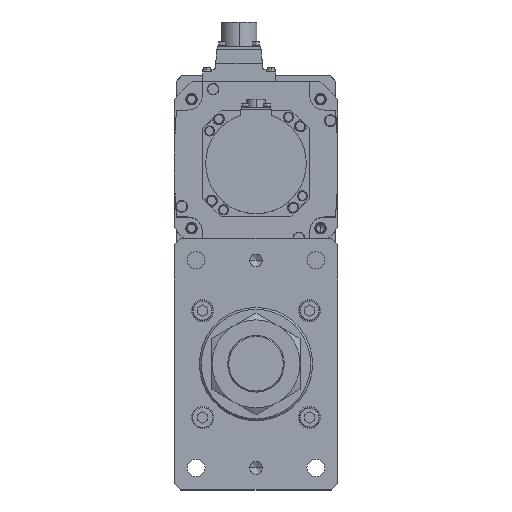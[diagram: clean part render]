
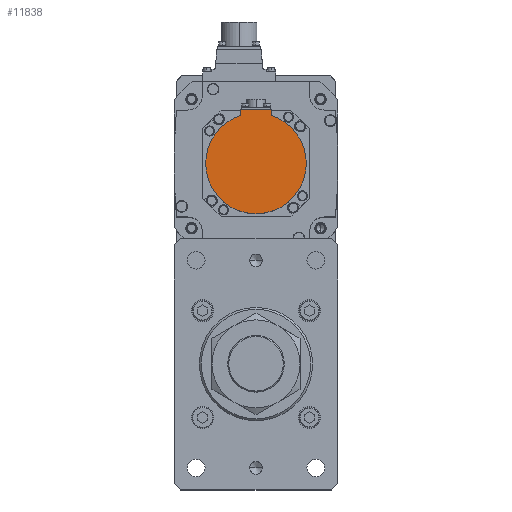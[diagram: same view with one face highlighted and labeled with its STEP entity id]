
A CAD part, top view. The second image highlights one B-rep face of the part: STEP entity #11838.
In plain terms, the highlighted planar face has unit normal (0, 0, 1) as drawn and (0, 0, -1) by its records, which use the part's own axes.
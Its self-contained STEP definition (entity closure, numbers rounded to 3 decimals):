
#1094 = LINE ( 'NONE', #6659, #1936 ) ;
#1126 = AXIS2_PLACEMENT_3D ( 'NONE', #30424, #25196, #14094 ) ;
#1936 = VECTOR ( 'NONE', #20010, 1000. ) ;
#2162 = CARTESIAN_POINT ( 'NONE',  ( 12., -42.5, -146.5 ) ) ;
#3071 = EDGE_CURVE ( 'NONE', #27426, #30811, #11373, .T. ) ;
#3262 = VERTEX_POINT ( 'NONE', #25679 ) ;
#3882 = CIRCLE ( 'NONE', #15030, 40. ) ;
#4363 = FACE_OUTER_BOUND ( 'NONE', #31242, .T. ) ;
#5574 = EDGE_CURVE ( 'NONE', #3262, #32224, #20406, .T. ) ;
#6659 = CARTESIAN_POINT ( 'NONE',  ( 0., -42.5, -146.5 ) ) ;
#7185 = CARTESIAN_POINT ( 'NONE',  ( 0., 0., -146.5 ) ) ;
#8068 = CARTESIAN_POINT ( 'NONE',  ( 40., 0., -146.5 ) ) ;
#8413 = VECTOR ( 'NONE', #13704, 1000. ) ;
#8505 = DIRECTION ( 'NONE',  ( 0., 0., 1. ) ) ;
#8548 = LINE ( 'NONE', #23220, #21117 ) ;
#10590 = CARTESIAN_POINT ( 'NONE',  ( -12., -40.329, -146.5 ) ) ;
#10646 = DIRECTION ( 'NONE',  ( 0., 0., 1. ) ) ;
#11373 = LINE ( 'NONE', #10590, #8413 ) ;
#11534 = ORIENTED_EDGE ( 'NONE', *, *, #31914, .F. ) ;
#11673 = VERTEX_POINT ( 'NONE', #2162 ) ;
#11838 = ADVANCED_FACE ( 'NONE', ( #4363 ), #27645, .F. ) ;
#13229 = ORIENTED_EDGE ( 'NONE', *, *, #5574, .F. ) ;
#13301 = CARTESIAN_POINT ( 'NONE',  ( -12., -42.5, -146.5 ) ) ;
#13704 = DIRECTION ( 'NONE',  ( 0., 1., 0. ) ) ;
#14094 = DIRECTION ( 'NONE',  ( 1., 0., 0. ) ) ;
#14225 = ORIENTED_EDGE ( 'NONE', *, *, #27668, .F. ) ;
#15030 = AXIS2_PLACEMENT_3D ( 'NONE', #7185, #19243, #32644 ) ;
#15440 = CARTESIAN_POINT ( 'NONE',  ( -40., 0., -146.5 ) ) ;
#15641 = DIRECTION ( 'NONE',  ( 1., 0., 0. ) ) ;
#17266 = CIRCLE ( 'NONE', #34623, 40. ) ;
#17501 = DIRECTION ( 'NONE',  ( 0., 1., 0. ) ) ;
#19034 = ORIENTED_EDGE ( 'NONE', *, *, #27115, .T. ) ;
#19243 = DIRECTION ( 'NONE',  ( 0., 0., 1. ) ) ;
#20010 = DIRECTION ( 'NONE',  ( -1., 0., 0. ) ) ;
#20406 = CIRCLE ( 'NONE', #20704, 40. ) ;
#20704 = AXIS2_PLACEMENT_3D ( 'NONE', #26631, #10646, #15641 ) ;
#21117 = VECTOR ( 'NONE', #17501, 1000. ) ;
#23184 = ORIENTED_EDGE ( 'NONE', *, *, #3071, .T. ) ;
#23220 = CARTESIAN_POINT ( 'NONE',  ( 12., -1.249, -146.5 ) ) ;
#23255 = CARTESIAN_POINT ( 'NONE',  ( 0., 0., -146.5 ) ) ;
#23316 = ORIENTED_EDGE ( 'NONE', *, *, #29294, .F. ) ;
#24527 = VERTEX_POINT ( 'NONE', #15440 ) ;
#25196 = DIRECTION ( 'NONE',  ( 0., 0., 1. ) ) ;
#25428 = DIRECTION ( 'NONE',  ( 1., 0., 0. ) ) ;
#25679 = CARTESIAN_POINT ( 'NONE',  ( 12., -38.158, -146.5 ) ) ;
#26631 = CARTESIAN_POINT ( 'NONE',  ( 0., 0., -146.5 ) ) ;
#27115 = EDGE_CURVE ( 'NONE', #11673, #27426, #1094, .T. ) ;
#27426 = VERTEX_POINT ( 'NONE', #13301 ) ;
#27645 = PLANE ( 'NONE',  #1126 ) ;
#27668 = EDGE_CURVE ( 'NONE', #11673, #3262, #8548, .T. ) ;
#29024 = CARTESIAN_POINT ( 'NONE',  ( -12., -38.158, -146.5 ) ) ;
#29294 = EDGE_CURVE ( 'NONE', #24527, #30811, #17266, .T. ) ;
#30424 = CARTESIAN_POINT ( 'NONE',  ( 0., -1.249, -146.5 ) ) ;
#30811 = VERTEX_POINT ( 'NONE', #29024 ) ;
#31242 = EDGE_LOOP ( 'NONE', ( #23184, #23316, #11534, #13229, #14225, #19034 ) ) ;
#31914 = EDGE_CURVE ( 'NONE', #32224, #24527, #3882, .T. ) ;
#32224 = VERTEX_POINT ( 'NONE', #8068 ) ;
#32644 = DIRECTION ( 'NONE',  ( 1., 0., 0. ) ) ;
#34623 = AXIS2_PLACEMENT_3D ( 'NONE', #23255, #8505, #25428 ) ;
